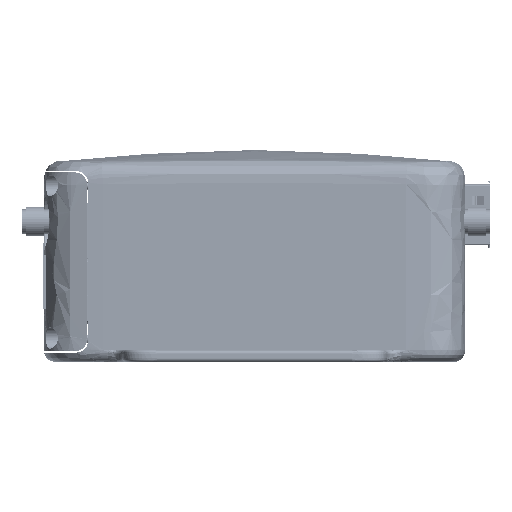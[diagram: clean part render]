
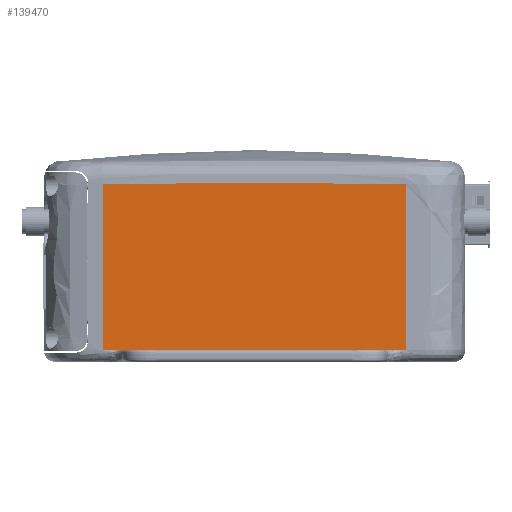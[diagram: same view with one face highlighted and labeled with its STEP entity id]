
A CAD part, front view. The second image highlights one B-rep face of the part: STEP entity #139470.
In plain terms, the highlighted planar face has unit normal (0, -1, 0) as drawn and (0, 0, 1) by its records, which use the part's own axes.
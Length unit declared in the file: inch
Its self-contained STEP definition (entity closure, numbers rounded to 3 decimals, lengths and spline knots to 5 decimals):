
#620 = VERTEX_POINT ( 'NONE', #188902 ) ;
#31133 = CARTESIAN_POINT ( 'NONE',  ( 0.09429, 0.67267, 1.185 ) ) ;
#38334 = VERTEX_POINT ( 'NONE', #391623 ) ;
#75602 = FACE_OUTER_BOUND ( 'NONE', #257747, .T. ) ;
#79313 = EDGE_CURVE ( 'NONE', #380342, #620, #218805, .T. ) ;
#106498 = CARTESIAN_POINT ( 'NONE',  ( 1.29, 0.65951, 1.185 ) ) ;
#108450 = CARTESIAN_POINT ( 'NONE',  ( 1.29, 0.19134, 1.185 ) ) ;
#114278 = CARTESIAN_POINT ( 'NONE',  ( 1.28927, -0.74538, 1.18506 ) ) ;
#122149 = CARTESIAN_POINT ( 'NONE',  ( -0.80409, 0.66834, 1.185 ) ) ;
#139134 = CARTESIAN_POINT ( 'NONE',  ( 1.29, -0.745, 1.185 ) ) ;
#139470 = ADVANCED_FACE ( 'NONE', ( #75602 ), #431090, .F. ) ;
#173732 = ORIENTED_EDGE ( 'NONE', *, *, #252786, .T. ) ;
#188902 = CARTESIAN_POINT ( 'NONE',  ( -1.29, 0.65953, 1.185 ) ) ;
#197809 = CARTESIAN_POINT ( 'NONE',  ( -1.29, -0.27682, 1.185 ) ) ;
#209263 = CARTESIAN_POINT ( 'NONE',  ( 0.04676, 0.67274, 1.185 ) ) ;
#218805 = B_SPLINE_CURVE_WITH_KNOTS ( 'NONE', 3,
 ( #567234, #341868, #527590, #571141, #302263, #31133, #209263, #393161, #122149, #389248 ),
 .UNSPECIFIED., .F., .F.,
 ( 4, 1, 1, 2, 2, 4 ),
 ( 0., 0.25, 0.375, 0.4375, 0.5, 1. ),
 .UNSPECIFIED. ) ;
#249317 = DIRECTION ( 'NONE',  ( 0., 0., -1. ) ) ;
#252786 = EDGE_CURVE ( 'NONE', #620, #424710, #393324, .T. ) ;
#257747 = EDGE_LOOP ( 'NONE', ( #173732, #539361, #316679, #500682 ) ) ;
#294781 = DIRECTION ( 'NONE',  ( -1., 0., 0. ) ) ;
#302263 = CARTESIAN_POINT ( 'NONE',  ( 0.19122, 0.67239, 1.185 ) ) ;
#304185 = AXIS2_PLACEMENT_3D ( 'NONE', #342157, #249317, #294781 ) ;
#316679 = ORIENTED_EDGE ( 'NONE', *, *, #581423, .T. ) ;
#327002 = CARTESIAN_POINT ( 'NONE',  ( -1.28932, -0.74539, 1.18506 ) ) ;
#341868 = CARTESIAN_POINT ( 'NONE',  ( 1.04682, 0.66392, 1.185 ) ) ;
#342157 = CARTESIAN_POINT ( 'NONE',  ( -1.79, 0.85, 1.185 ) ) ;
#362959 = B_SPLINE_CURVE_WITH_KNOTS ( 'NONE', 3,
 ( #114278, #426795, #108450, #106498 ),
 .UNSPECIFIED., .F., .F.,
 ( 4, 4 ),
 ( 0.06176, 0.88795 ),
 .UNSPECIFIED. ) ;
#364648 = DIRECTION ( 'NONE',  ( 1., 0., 0. ) ) ;
#368163 = VECTOR ( 'NONE', #364648, 39.37008 ) ;
#380342 = VERTEX_POINT ( 'NONE', #452151 ) ;
#389248 = CARTESIAN_POINT ( 'NONE',  ( -1.29, 0.65953, 1.185 ) ) ;
#391623 = CARTESIAN_POINT ( 'NONE',  ( 1.28927, -0.74538, 1.18506 ) ) ;
#393161 = CARTESIAN_POINT ( 'NONE',  ( -0.37409, 0.67274, 1.185 ) ) ;
#393324 = B_SPLINE_CURVE_WITH_KNOTS ( 'NONE', 3,
 ( #423265, #555840, #197809, #557763 ),
 .UNSPECIFIED., .F., .F.,
 ( 4, 4 ),
 ( 0.11204, 0.93824 ),
 .UNSPECIFIED. ) ;
#423265 = CARTESIAN_POINT ( 'NONE',  ( -1.29, 0.65953, 1.185 ) ) ;
#424710 = VERTEX_POINT ( 'NONE', #327002 ) ;
#426795 = CARTESIAN_POINT ( 'NONE',  ( 1.29, -0.27683, 1.185 ) ) ;
#431090 = PLANE ( 'NONE',  #304185 ) ;
#452151 = CARTESIAN_POINT ( 'NONE',  ( 1.29, 0.65951, 1.185 ) ) ;
#488421 = LINE ( 'NONE', #139134, #368163 ) ;
#491124 = EDGE_CURVE ( 'NONE', #424710, #38334, #488421, .T. ) ;
#500682 = ORIENTED_EDGE ( 'NONE', *, *, #79313, .T. ) ;
#527590 = CARTESIAN_POINT ( 'NONE',  ( 0.70318, 0.66887, 1.185 ) ) ;
#539361 = ORIENTED_EDGE ( 'NONE', *, *, #491124, .T. ) ;
#555840 = CARTESIAN_POINT ( 'NONE',  ( -1.29, 0.19135, 1.185 ) ) ;
#557763 = CARTESIAN_POINT ( 'NONE',  ( -1.28932, -0.74539, 1.18506 ) ) ;
#567234 = CARTESIAN_POINT ( 'NONE',  ( 1.29, 0.65951, 1.185 ) ) ;
#571141 = CARTESIAN_POINT ( 'NONE',  ( 0.33926, 0.67177, 1.185 ) ) ;
#581423 = EDGE_CURVE ( 'NONE', #38334, #380342, #362959, .T. ) ;
